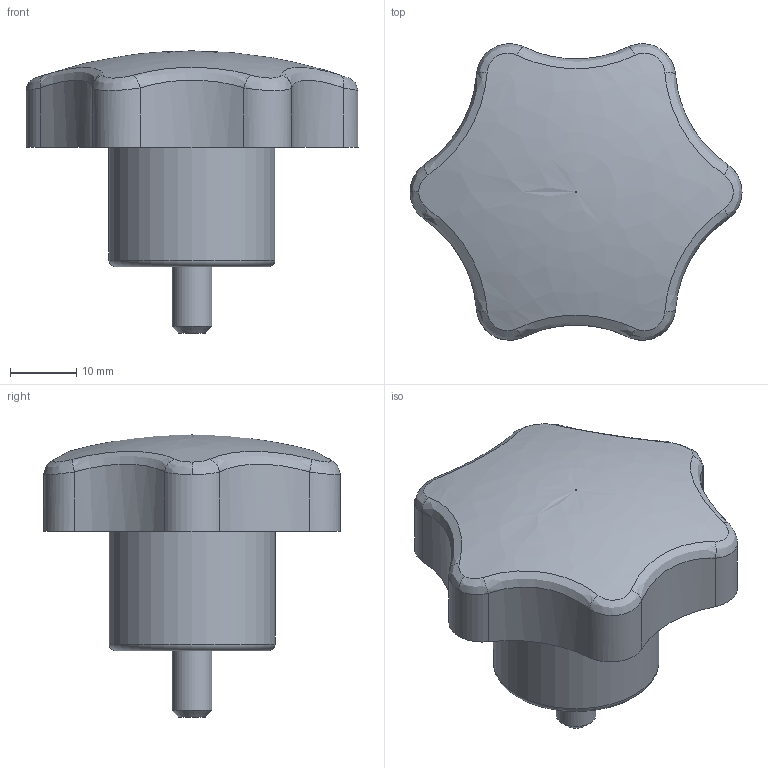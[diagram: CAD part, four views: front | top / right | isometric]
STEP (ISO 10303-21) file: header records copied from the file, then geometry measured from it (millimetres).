
FILE_DESCRIPTION( ('This file contains a STEP AP42 implementation' ,'as created by ZW3D STEP Interface translator.') ,'2;1' );
FILE_NAME( 'Rekojesc gwiazdowa z trzpieniem gwintowanym 50.stp' ,'26 331. 75124', (''), ('ZWCAD Software Co.'), 'Version 1.0', 'ZW3D to STEP translator', '' );
FILE_SCHEMA(('AP242_MANAGED_MODEL_BASED_3D_ENGINEERING_MIM_LF { 1 0 10303 442 1 1 4 }'));
Length unit declared in the file: millimetre
Products named in the file (1): 0
Bounding box: 50 x 44.64 x 42.5 mm (x, y, z)
Volume: 28715.2 mm3; surface area: 7105.7 mm2
Topology: 2 solids, 2 shells, 51 faces, 114 edges, 71 vertices
Faces by surface type: plane 20, cylinder 15, bspline 14, torus 1, cone 1
Full cylindrical faces by diameter (mm): 6 x2, 25 x1
Entity records: 2469 total; most frequent: CARTESIAN_POINT 1393, ORIENTED_EDGE 228, DIRECTION 174, EDGE_CURVE 114, VERTEX_POINT 71, AXIS2_PLACEMENT_3D 61, EDGE_LOOP 55, VECTOR 52
